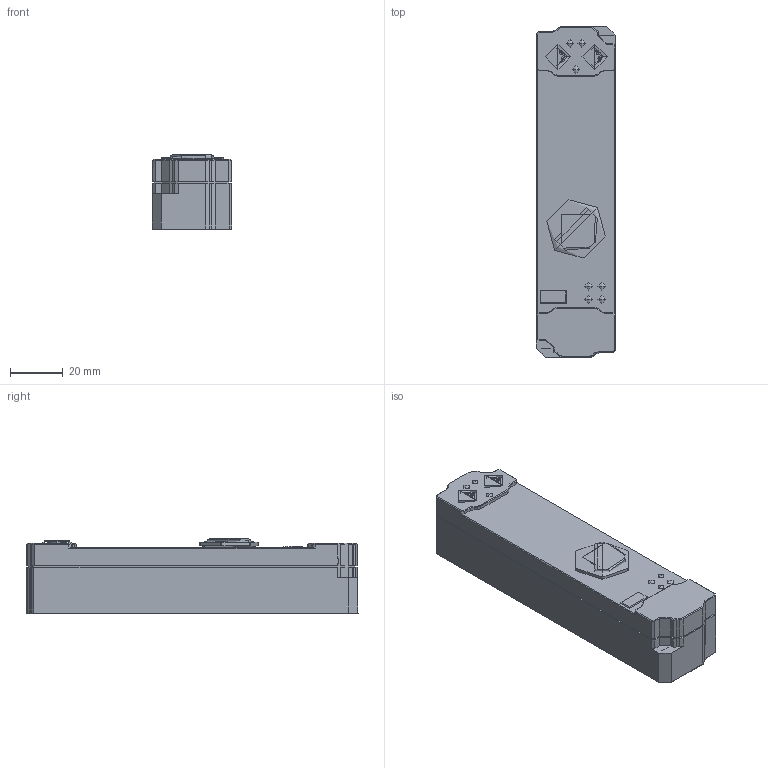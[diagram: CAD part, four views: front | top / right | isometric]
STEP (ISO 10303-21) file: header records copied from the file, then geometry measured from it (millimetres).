
FILE_DESCRIPTION(/* description */ (''),/* implementation_level */ '2;1');
FILE_NAME(/* name */ 'EP2816-0004',/* time_stamp */ '2017-12-15T11:29:26+01:00',/* author */ (''),/* organization */ (''),/* preprocessor_version */ 'ST-DEVELOPER v15',/* originating_system */ '',/* authorisation */ '');
FILE_SCHEMA (('CONFIG_CONTROL_DESIGN'));
Length unit declared in the file: millimetre
Products named in the file (1): Document
Bounding box: 30.36 x 126.42 x 28.24 mm (x, y, z)
Surface area: 18691.4 mm2 (no closed solid volume)
Topology: 0 solids, 436 shells, 450 faces, 2251 edges, 2202 vertices
Faces by surface type: bspline 314, plane 136
Entity records: 25682 total; most frequent: CARTESIAN_POINT 15624, ORIENTED_EDGE 2256, EDGE_CURVE 2228, VERTEX_POINT 2200, B_SPLINE_CURVE_WITH_KNOTS 521, EDGE_LOOP 506, ADVANCED_FACE 450, FACE_OUTER_BOUND 450
